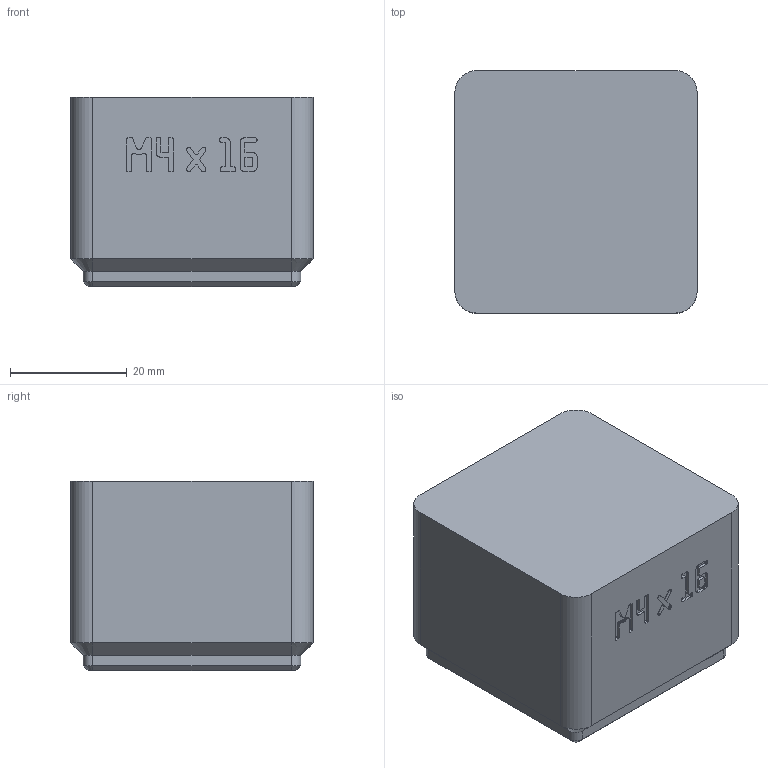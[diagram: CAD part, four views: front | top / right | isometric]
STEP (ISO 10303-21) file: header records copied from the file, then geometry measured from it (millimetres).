
FILE_DESCRIPTION(('Open CASCADE Model'),'2;1');
FILE_NAME('Open CASCADE Shape Model','2026-11-03T16:23:13',('Author'),( 'Open CASCADE'),'Open CASCADE STEP processor 8.0','build123d', 'Unknown');
FILE_SCHEMA(('AUTOMOTIVE_DESIGN { 1 0 10303 214 1 1 1 1 }'));
Products named in the file (1): COMPOUND
Bounding box: 41.5 x 41.5 x 32.4 mm (x, y, z)
Volume: 15957.7 mm3; surface area: 15730.6 mm2
Topology: 1 solids, 2 shells, 1073 faces, 3128 edges, 2072 vertices
Faces by surface type: plane 1037, cylinder 16, cone 12, bspline 8
Entity records: 75322 total; most frequent: CARTESIAN_POINT 12794, DIRECTION 11416, LINE 9180, VECTOR 9180, ORIENTED_EDGE 6256, PCURVE 6256, DEFINITIONAL_REPRESENTATION 6256, EDGE_CURVE 3128
